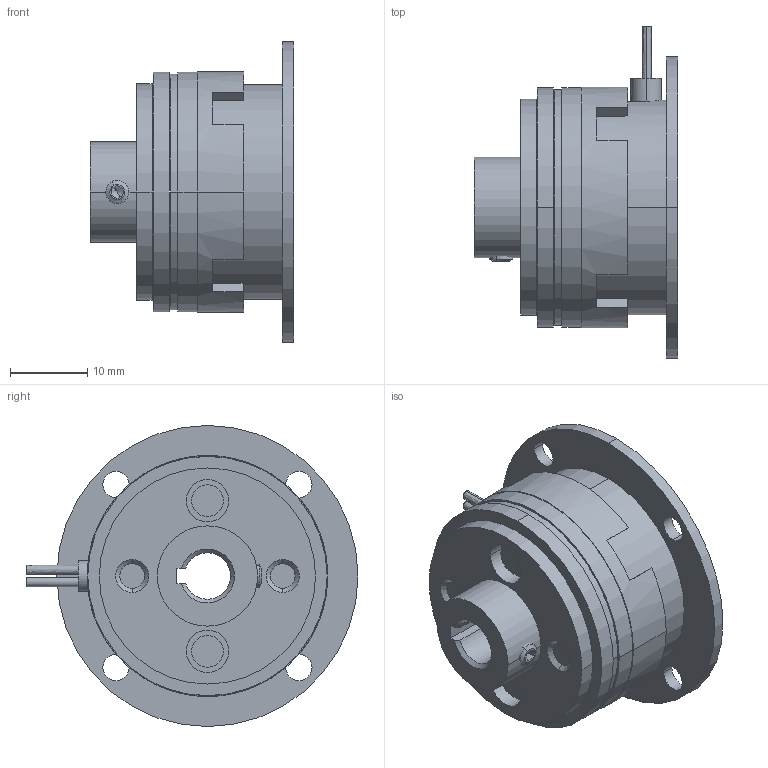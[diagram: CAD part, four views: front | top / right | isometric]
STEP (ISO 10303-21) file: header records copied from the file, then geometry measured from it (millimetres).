
FILE_DESCRIPTION((''),'2;1');
FILE_NAME('G:\Konstruktion\Datenkonvertierung\step\14.110.02.101.stp','2004-01-30T09:03:25',('schöttelndreier'),(''),'Autodesk Inventor 8','Autodesk Inventor 8','');
FILE_SCHEMA(('AUTOMOTIVE_DESIGN { 1 0 10303 214 1 1 1 1 }'));
Length unit declared in the file: millimetre
Products named in the file (17): 14.110.02.101; 14.110.02.100-001 dxf; 14.100.02.100-001 dxf; 14.100.02.991-001 dxf; Abdeck; Spule_02 dxf; 14.110.02.997-001 dxf; 14.110.02.992-001 dxf; Reibbelag_02 dxf; 14.100.02.001-001; 14.100.02.003-001; 14.100.02.993-001; 30.4.101-142; Niete; 14.100.02.993-200; Niete2; DIN 916  (Regelgewinde) M3  x  4
Assembly tree (18 placements, depth 4):
  14.110.02.101
    14.110.02.100-001 dxf
      14.100.02.100-001 dxf
        14.100.02.991-001 dxf
        Abdeck
        Spule_02 dxf
      14.110.02.997-001 dxf
        14.110.02.992-001 dxf
        Reibbelag_02 dxf
    14.100.02.001-001
      14.100.02.003-001
        14.100.02.993-001
        30.4.101-142
        Niete  x2
      14.100.02.993-200
      Niete2  x2
      DIN 916  (Regelgewinde) M3  x  4
Bounding box: 26.35 x 43 x 39 mm (x, y, z)
Volume: 11787.8 mm3; surface area: 15621.7 mm2
Topology: 13 solids, 13 shells, 263 faces, 630 edges, 404 vertices
Faces by surface type: cylinder 138, plane 79, cone 39, bspline 5, torus 2
Entity records: 8155 total; most frequent: CARTESIAN_POINT 1619, DIRECTION 1422, ORIENTED_EDGE 1188, EDGE_CURVE 594, AXIS2_PLACEMENT_3D 590, VERTEX_POINT 384, EDGE_LOOP 316, CIRCLE 315
